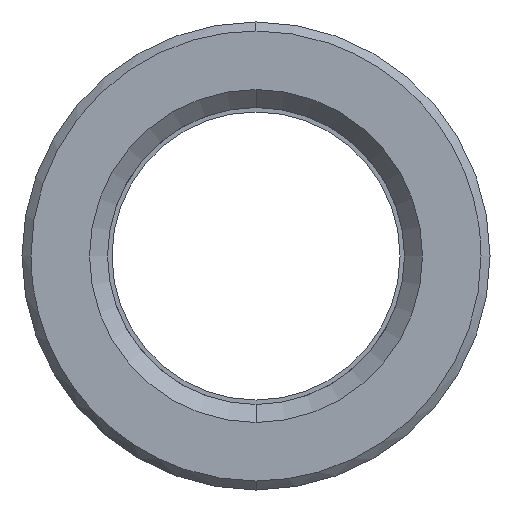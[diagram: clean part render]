
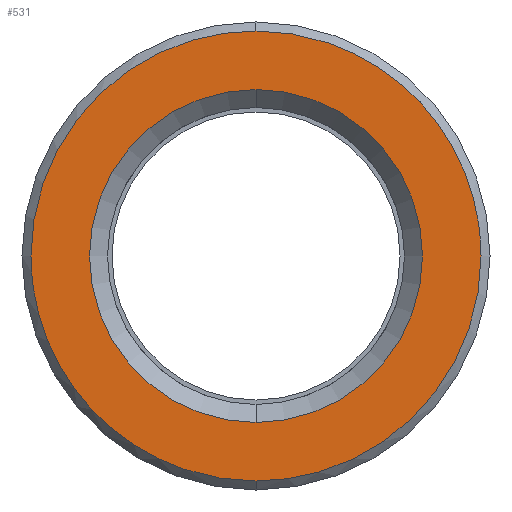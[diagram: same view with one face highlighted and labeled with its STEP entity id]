
A CAD part, left-side view. The second image highlights one B-rep face of the part: STEP entity #531.
In plain terms, the highlighted planar face has unit normal (-1, 0, 0).
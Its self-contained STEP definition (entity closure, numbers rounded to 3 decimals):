
#311=CARTESIAN_POINT('Axis2P3D Location',(0.,0.,0.)) ;
#315=CARTESIAN_POINT('Vertex',(0.,9.25,0.)) ;
#317=CARTESIAN_POINT('Vertex',(0.,0.,9.25)) ;
#320=CARTESIAN_POINT('Axis2P3D Location',(0.,0.,0.)) ;
#324=CARTESIAN_POINT('Vertex',(0.,0.,-9.25)) ;
#351=CARTESIAN_POINT('Axis2P3D Location',(0.,0.,0.)) ;
#355=CARTESIAN_POINT('Vertex',(0.,-9.25,0.)) ;
#358=CARTESIAN_POINT('Axis2P3D Location',(0.,0.,0.)) ;
#438=CARTESIAN_POINT('Axis2P3D Location',(0.,12.5,0.)) ;
#444=CARTESIAN_POINT('Control Point',(0.,0.,-12.5)) ;
#445=CARTESIAN_POINT('Control Point',(0.,0.923,-12.5)) ;
#446=CARTESIAN_POINT('Control Point',(0.,1.846,-12.415)) ;
#447=CARTESIAN_POINT('Control Point',(0.,2.758,-12.245)) ;
#448=CARTESIAN_POINT('Control Point',(0.,4.82,-11.658)) ;
#449=CARTESIAN_POINT('Control Point',(0.,6.718,-10.646)) ;
#450=CARTESIAN_POINT('Control Point',(0.,7.721,-9.943)) ;
#451=CARTESIAN_POINT('Control Point',(0.,9.535,-8.308)) ;
#452=CARTESIAN_POINT('Control Point',(0.,10.907,-6.287)) ;
#453=CARTESIAN_POINT('Control Point',(0.,11.466,-5.197)) ;
#454=CARTESIAN_POINT('Control Point',(0.,12.089,-3.503)) ;
#455=CARTESIAN_POINT('Control Point',(0.,12.399,-1.736)) ;
#456=CARTESIAN_POINT('Control Point',(0.,12.466,-1.159)) ;
#457=CARTESIAN_POINT('Control Point',(0.,12.5,-0.579)) ;
#458=CARTESIAN_POINT('Control Point',(0.,12.5,0.)) ;
#459=CARTESIAN_POINT('Vertex',(0.,0.,-12.5)) ;
#461=CARTESIAN_POINT('Vertex',(0.,12.5,0.)) ;
#465=CARTESIAN_POINT('Control Point',(0.,-12.5,0.)) ;
#466=CARTESIAN_POINT('Control Point',(0.,-12.5,-1.212)) ;
#467=CARTESIAN_POINT('Control Point',(0.,-12.353,-2.425)) ;
#468=CARTESIAN_POINT('Control Point',(0.,-12.059,-3.614)) ;
#469=CARTESIAN_POINT('Control Point',(0.,-11.189,-5.896)) ;
#470=CARTESIAN_POINT('Control Point',(0.,-9.798,-7.904)) ;
#471=CARTESIAN_POINT('Control Point',(0.,-8.984,-8.819)) ;
#472=CARTESIAN_POINT('Control Point',(0.,-7.15,-10.432)) ;
#473=CARTESIAN_POINT('Control Point',(0.,-4.984,-11.56)) ;
#474=CARTESIAN_POINT('Control Point',(0.,-3.837,-11.99)) ;
#475=CARTESIAN_POINT('Control Point',(0.,-2.366,-12.344)) ;
#476=CARTESIAN_POINT('Control Point',(0.,-0.869,-12.475)) ;
#477=CARTESIAN_POINT('Control Point',(0.,-0.579,-12.492)) ;
#478=CARTESIAN_POINT('Control Point',(0.,-0.29,-12.5)) ;
#479=CARTESIAN_POINT('Control Point',(0.,0.,-12.5)) ;
#480=CARTESIAN_POINT('Vertex',(0.,-12.5,0.)) ;
#484=CARTESIAN_POINT('Control Point',(0.,0.,12.5)) ;
#485=CARTESIAN_POINT('Control Point',(0.,-0.923,12.5)) ;
#486=CARTESIAN_POINT('Control Point',(0.,-1.846,12.415)) ;
#487=CARTESIAN_POINT('Control Point',(0.,-2.758,12.245)) ;
#488=CARTESIAN_POINT('Control Point',(0.,-4.82,11.658)) ;
#489=CARTESIAN_POINT('Control Point',(0.,-6.718,10.646)) ;
#490=CARTESIAN_POINT('Control Point',(0.,-7.721,9.943)) ;
#491=CARTESIAN_POINT('Control Point',(0.,-9.535,8.308)) ;
#492=CARTESIAN_POINT('Control Point',(0.,-10.907,6.287)) ;
#493=CARTESIAN_POINT('Control Point',(0.,-11.466,5.197)) ;
#494=CARTESIAN_POINT('Control Point',(0.,-12.089,3.503)) ;
#495=CARTESIAN_POINT('Control Point',(0.,-12.399,1.736)) ;
#496=CARTESIAN_POINT('Control Point',(0.,-12.466,1.159)) ;
#497=CARTESIAN_POINT('Control Point',(0.,-12.5,0.579)) ;
#498=CARTESIAN_POINT('Control Point',(0.,-12.5,0.)) ;
#499=CARTESIAN_POINT('Vertex',(0.,0.,12.5)) ;
#503=CARTESIAN_POINT('Control Point',(0.,12.5,0.)) ;
#504=CARTESIAN_POINT('Control Point',(0.,12.5,1.212)) ;
#505=CARTESIAN_POINT('Control Point',(0.,12.353,2.425)) ;
#506=CARTESIAN_POINT('Control Point',(0.,12.059,3.614)) ;
#507=CARTESIAN_POINT('Control Point',(0.,11.189,5.896)) ;
#508=CARTESIAN_POINT('Control Point',(0.,9.798,7.904)) ;
#509=CARTESIAN_POINT('Control Point',(0.,8.984,8.819)) ;
#510=CARTESIAN_POINT('Control Point',(0.,7.15,10.432)) ;
#511=CARTESIAN_POINT('Control Point',(0.,4.984,11.56)) ;
#512=CARTESIAN_POINT('Control Point',(0.,3.837,11.99)) ;
#513=CARTESIAN_POINT('Control Point',(0.,2.366,12.344)) ;
#514=CARTESIAN_POINT('Control Point',(0.,0.869,12.475)) ;
#515=CARTESIAN_POINT('Control Point',(0.,0.579,12.492)) ;
#516=CARTESIAN_POINT('Control Point',(0.,0.29,12.5)) ;
#517=CARTESIAN_POINT('Control Point',(0.,0.,12.5)) ;
#312=DIRECTION('Axis2P3D Direction',(-1.,0.,0.)) ;
#321=DIRECTION('Axis2P3D Direction',(-1.,0.,0.)) ;
#352=DIRECTION('Axis2P3D Direction',(-1.,0.,0.)) ;
#359=DIRECTION('Axis2P3D Direction',(-1.,0.,0.)) ;
#439=DIRECTION('Axis2P3D Direction',(-1.,0.,0.)) ;
#440=DIRECTION('Axis2P3D XDirection',(0.,0.,1.)) ;
#313=AXIS2_PLACEMENT_3D('Circle Axis2P3D',#311,#312,$) ;
#322=AXIS2_PLACEMENT_3D('Circle Axis2P3D',#320,#321,$) ;
#353=AXIS2_PLACEMENT_3D('Circle Axis2P3D',#351,#352,$) ;
#360=AXIS2_PLACEMENT_3D('Circle Axis2P3D',#358,#359,$) ;
#441=AXIS2_PLACEMENT_3D('Plane Axis2P3D',#438,#439,#440) ;
#520=ORIENTED_EDGE('',*,*,#463,.F.) ;
#521=ORIENTED_EDGE('',*,*,#482,.F.) ;
#522=ORIENTED_EDGE('',*,*,#501,.F.) ;
#523=ORIENTED_EDGE('',*,*,#518,.F.) ;
#526=ORIENTED_EDGE('',*,*,#319,.T.) ;
#527=ORIENTED_EDGE('',*,*,#362,.T.) ;
#528=ORIENTED_EDGE('',*,*,#357,.T.) ;
#529=ORIENTED_EDGE('',*,*,#326,.T.) ;
#530=FACE_BOUND('',#525,.T.) ;
#531=ADVANCED_FACE('553-16X96',(#524,#530),#442,.T.) ;
#443=B_SPLINE_CURVE_WITH_KNOTS('',5,(#444,#445,#446,#447,#448,#449,#450,#451,#452,#453,#454,#455,#456,#457,#458),.UNSPECIFIED.,.F.,.U.,(6,3,3,3,6),(27.768,34.293,42.866,51.439,55.536),.UNSPECIFIED.) ;
#464=B_SPLINE_CURVE_WITH_KNOTS('',5,(#465,#466,#467,#468,#469,#470,#471,#472,#473,#474,#475,#476,#477,#478,#479),.UNSPECIFIED.,.F.,.U.,(6,3,3,3,6),(0.,8.573,17.146,25.719,27.768),.UNSPECIFIED.) ;
#483=B_SPLINE_CURVE_WITH_KNOTS('',5,(#484,#485,#486,#487,#488,#489,#490,#491,#492,#493,#494,#495,#496,#497,#498),.UNSPECIFIED.,.F.,.U.,(6,3,3,3,6),(27.768,34.293,42.866,51.439,55.536),.UNSPECIFIED.) ;
#502=B_SPLINE_CURVE_WITH_KNOTS('',5,(#503,#504,#505,#506,#507,#508,#509,#510,#511,#512,#513,#514,#515,#516,#517),.UNSPECIFIED.,.F.,.U.,(6,3,3,3,6),(0.,8.573,17.146,25.719,27.768),.UNSPECIFIED.) ;
#314=CIRCLE('generated circle',#313,9.25) ;
#323=CIRCLE('generated circle',#322,9.25) ;
#354=CIRCLE('generated circle',#353,9.25) ;
#361=CIRCLE('generated circle',#360,9.25) ;
#319=EDGE_CURVE('',#316,#318,#314,.F.) ;
#326=EDGE_CURVE('',#325,#316,#323,.F.) ;
#357=EDGE_CURVE('',#356,#325,#354,.F.) ;
#362=EDGE_CURVE('',#318,#356,#361,.F.) ;
#463=EDGE_CURVE('',#460,#462,#443,.T.) ;
#482=EDGE_CURVE('',#481,#460,#464,.T.) ;
#501=EDGE_CURVE('',#500,#481,#483,.T.) ;
#518=EDGE_CURVE('',#462,#500,#502,.T.) ;
#519=EDGE_LOOP('',(#520,#521,#522,#523)) ;
#525=EDGE_LOOP('',(#526,#527,#528,#529)) ;
#524=FACE_OUTER_BOUND('',#519,.T.) ;
#442=PLANE('Plane',#441) ;
#316=VERTEX_POINT('',#315) ;
#318=VERTEX_POINT('',#317) ;
#325=VERTEX_POINT('',#324) ;
#356=VERTEX_POINT('',#355) ;
#460=VERTEX_POINT('',#459) ;
#462=VERTEX_POINT('',#461) ;
#481=VERTEX_POINT('',#480) ;
#500=VERTEX_POINT('',#499) ;
